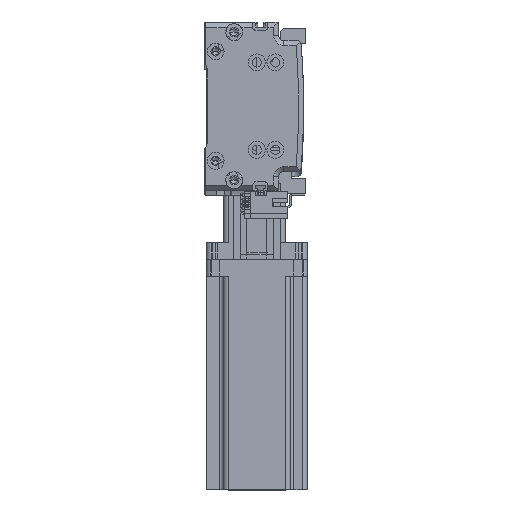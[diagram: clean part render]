
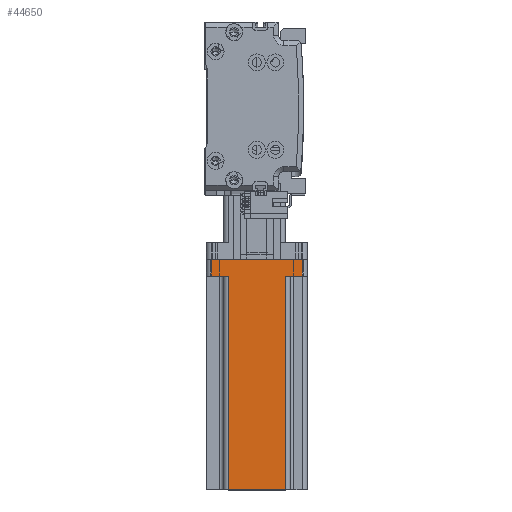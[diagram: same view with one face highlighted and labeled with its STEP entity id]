
A CAD part, top view. The second image highlights one B-rep face of the part: STEP entity #44650.
In plain terms, the highlighted planar face has unit normal (0, 0, 1) as drawn and (0, 1, 0) by its records, which use the part's own axes.
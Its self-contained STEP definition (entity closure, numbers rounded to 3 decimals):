
#501 = LINE ( 'NONE', #60470, #13102 ) ;
#827 = ORIENTED_EDGE ( 'NONE', *, *, #14043, .T. ) ;
#1857 = VERTEX_POINT ( 'NONE', #34844 ) ;
#4147 = ORIENTED_EDGE ( 'NONE', *, *, #34829, .T. ) ;
#5892 = CARTESIAN_POINT ( 'NONE',  ( 17., 30., 137. ) ) ;
#6121 = CARTESIAN_POINT ( 'NONE',  ( 30., 30., 137. ) ) ;
#7075 = CARTESIAN_POINT ( 'NONE',  ( 17., 30., 10. ) ) ;
#8529 = DIRECTION ( 'NONE',  ( 0., 0., 1. ) ) ;
#9388 = CARTESIAN_POINT ( 'NONE',  ( 17., 30., 137. ) ) ;
#10816 = CARTESIAN_POINT ( 'NONE',  ( -17., 30., 137. ) ) ;
#10861 = DIRECTION ( 'NONE',  ( 1., 0., 0. ) ) ;
#12516 = VERTEX_POINT ( 'NONE', #22379 ) ;
#12544 = LINE ( 'NONE', #22942, #61420 ) ;
#13074 = CARTESIAN_POINT ( 'NONE',  ( 30., 30., 0. ) ) ;
#13102 = VECTOR ( 'NONE', #8529, 1000. ) ;
#14043 = EDGE_CURVE ( 'NONE', #32733, #12516, #501, .T. ) ;
#15458 = PLANE ( 'NONE',  #36240 ) ;
#15783 = VECTOR ( 'NONE', #43738, 1000. ) ;
#16024 = ORIENTED_EDGE ( 'NONE', *, *, #41941, .F. ) ;
#16377 = CARTESIAN_POINT ( 'NONE',  ( 30., 30., 137. ) ) ;
#17269 = LINE ( 'NONE', #5892, #15783 ) ;
#18850 = EDGE_CURVE ( 'NONE', #45709, #51377, #17269, .T. ) ;
#20701 = EDGE_LOOP ( 'NONE', ( #42644, #32606, #28409, #27906, #16024, #31878, #4147, #827 ) ) ;
#21106 = DIRECTION ( 'NONE',  ( -1., 0., 0. ) ) ;
#22379 = CARTESIAN_POINT ( 'NONE',  ( -27., 30., 10. ) ) ;
#22401 = LINE ( 'NONE', #32532, #46062 ) ;
#22942 = CARTESIAN_POINT ( 'NONE',  ( -20., 30., 10. ) ) ;
#24310 = EDGE_CURVE ( 'NONE', #12516, #42973, #12544, .T. ) ;
#27667 = VECTOR ( 'NONE', #46127, 1000. ) ;
#27906 = ORIENTED_EDGE ( 'NONE', *, *, #18850, .T. ) ;
#28409 = ORIENTED_EDGE ( 'NONE', *, *, #52437, .F. ) ;
#28554 = CARTESIAN_POINT ( 'NONE',  ( 20., 30., 10. ) ) ;
#31878 = ORIENTED_EDGE ( 'NONE', *, *, #58680, .T. ) ;
#32532 = CARTESIAN_POINT ( 'NONE',  ( 27., 30., 137. ) ) ;
#32606 = ORIENTED_EDGE ( 'NONE', *, *, #60357, .T. ) ;
#32733 = VERTEX_POINT ( 'NONE', #43477 ) ;
#33836 = VECTOR ( 'NONE', #48700, 1000. ) ;
#34829 = EDGE_CURVE ( 'NONE', #1857, #32733, #41692, .T. ) ;
#34844 = CARTESIAN_POINT ( 'NONE',  ( 27., 30., 0. ) ) ;
#36240 = AXIS2_PLACEMENT_3D ( 'NONE', #6121, #39265, #10861 ) ;
#37173 = LINE ( 'NONE', #16377, #48270 ) ;
#38024 = VERTEX_POINT ( 'NONE', #50037 ) ;
#39265 = DIRECTION ( 'NONE',  ( 0., -1., 0. ) ) ;
#41692 = LINE ( 'NONE', #13074, #27667 ) ;
#41941 = EDGE_CURVE ( 'NONE', #38024, #51377, #48107, .T. ) ;
#41983 = DIRECTION ( 'NONE',  ( 1., 0., 0. ) ) ;
#42155 = CARTESIAN_POINT ( 'NONE',  ( -17., 30., 10. ) ) ;
#42644 = ORIENTED_EDGE ( 'NONE', *, *, #24310, .T. ) ;
#42973 = VERTEX_POINT ( 'NONE', #42155 ) ;
#43477 = CARTESIAN_POINT ( 'NONE',  ( -27., 30., 0. ) ) ;
#43671 = CARTESIAN_POINT ( 'NONE',  ( -17., 30., 137. ) ) ;
#43738 = DIRECTION ( 'NONE',  ( 0., 0., -1. ) ) ;
#44650 = ADVANCED_FACE ( 'NONE', ( #52105 ), #15458, .F. ) ;
#45709 = VERTEX_POINT ( 'NONE', #9388 ) ;
#46062 = VECTOR ( 'NONE', #57140, 1000. ) ;
#46127 = DIRECTION ( 'NONE',  ( -1., 0., 0. ) ) ;
#46621 = VECTOR ( 'NONE', #52167, 1000. ) ;
#47919 = LINE ( 'NONE', #10816, #33836 ) ;
#48107 = LINE ( 'NONE', #28554, #46621 ) ;
#48270 = VECTOR ( 'NONE', #21106, 1000. ) ;
#48700 = DIRECTION ( 'NONE',  ( 0., 0., 1. ) ) ;
#50037 = CARTESIAN_POINT ( 'NONE',  ( 27., 30., 10. ) ) ;
#51377 = VERTEX_POINT ( 'NONE', #7075 ) ;
#52105 = FACE_OUTER_BOUND ( 'NONE', #20701, .T. ) ;
#52167 = DIRECTION ( 'NONE',  ( -1., 0., 0. ) ) ;
#52437 = EDGE_CURVE ( 'NONE', #45709, #58740, #37173, .T. ) ;
#57140 = DIRECTION ( 'NONE',  ( 0., 0., -1. ) ) ;
#58680 = EDGE_CURVE ( 'NONE', #38024, #1857, #22401, .T. ) ;
#58740 = VERTEX_POINT ( 'NONE', #43671 ) ;
#60357 = EDGE_CURVE ( 'NONE', #42973, #58740, #47919, .T. ) ;
#60470 = CARTESIAN_POINT ( 'NONE',  ( -27., 30., 137. ) ) ;
#61420 = VECTOR ( 'NONE', #41983, 1000. ) ;
